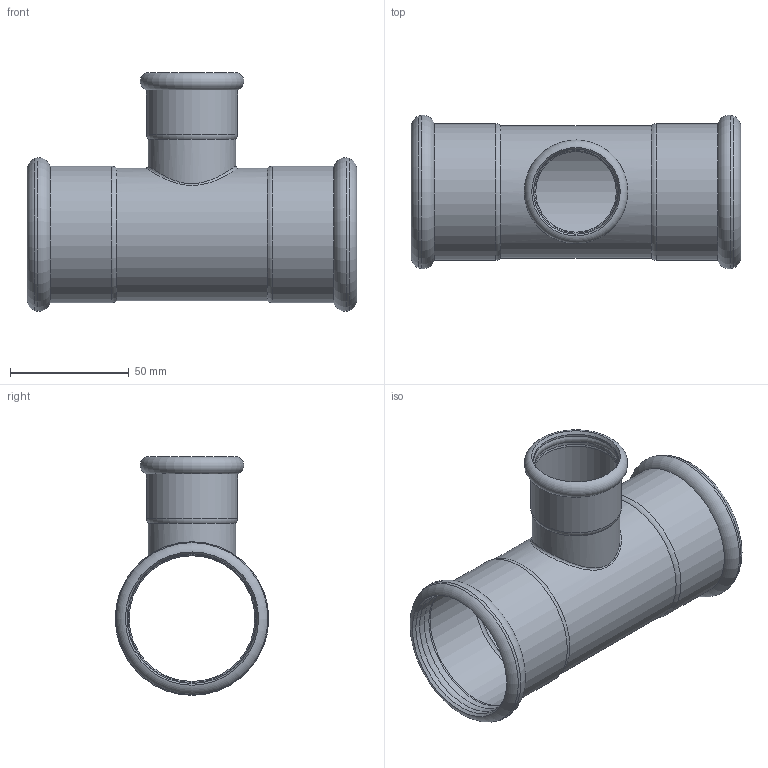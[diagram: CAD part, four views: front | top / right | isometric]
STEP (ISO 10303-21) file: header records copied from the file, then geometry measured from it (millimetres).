
FILE_DESCRIPTION(/* description */ ('TEE RIDOTTO 54-35-54'),/* implementation_level */ '2;1');
FILE_NAME(/* name */ 'R:\Disegni3D_Area_Manager\Inoxpres.step\192_INOXPRES\192054035_Inoxpres.stp',/* time_stamp */ '2022-10-12T11:29:37+02:00',/* author */ ('Vault'),/* organization */ ('Raccorderie metalliche s.p.a. '),/* preprocessor_version */ 'ST-DEVELOPER v18.1',/* originating_system */ 'Autodesk Inventor 2020',/* authorisation */ 'Raccorderie metalliche s.p.a. ');
FILE_SCHEMA (('AUTOMOTIVE_DESIGN { 1 0 10303 214 3 1 1 }'));
Length unit declared in the file: millimetre
Products named in the file (1): 192054035_Inoxpres
Bounding box: 139 x 64.76 x 100.68 mm (x, y, z)
Volume: 53203.1 mm3; surface area: 58799.9 mm2
Topology: 1 solids, 1 shells, 42 faces, 147 edges, 106 vertices
Faces by surface type: torus 19, cylinder 17, cone 3, bspline 2, plane 1
Full cylindrical faces by diameter (mm): 34 x1, 34.6 x1, 35.4 x1, 35.8 x2, 37 x1, 38.4 x1, 53 x1, 54.5 x2, 54.7 x4, 56 x1, 57.5 x2
Entity records: 2066 total; most frequent: CARTESIAN_POINT 620, DIRECTION 345, ORIENTED_EDGE 296, AXIS2_PLACEMENT_3D 162, EDGE_CURVE 148, CIRCLE 121, VERTEX_POINT 107, EDGE_LOOP 45
